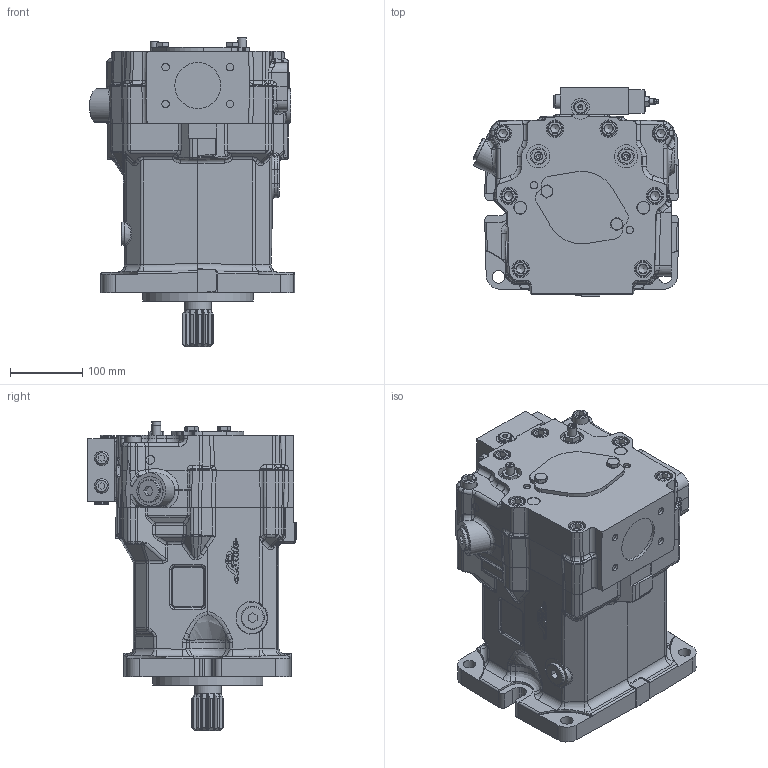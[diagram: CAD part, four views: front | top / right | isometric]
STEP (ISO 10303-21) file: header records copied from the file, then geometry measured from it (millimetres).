
FILE_DESCRIPTION(/* description */ (''),/* implementation_level */ '2;1');
FILE_NAME(/* name */ '1850259hm355.stp',/* time_stamp */ '2012-03-28T14:15:52+02:00',/* author */ (''),/* organization */ (''),/* preprocessor_version */ 'ST-DEVELOPER v11',/* originating_system */ 'SIEMENS PLM Software NX 7.5',/* authorisation */ '');
FILE_SCHEMA (('AUTOMOTIVE_DESIGN { 1 0 10303 214 1 1 1 1 }'));
Products named in the file (1): 1850259hm355
Bounding box: 284.09 x 287.5 x 426.7 mm (x, y, z)
Volume: 16220454.5 mm3; surface area: 674704.7 mm2
Topology: 4 solids, 32 shells, 2187 faces, 5219 edges, 3229 vertices
Faces by surface type: plane 788, cylinder 636, bspline 318, cone 172, extrusion 146, torus 71, sphere 30, revolution 26
Full cylindrical faces by diameter (mm): 3 x2, 5 x10, 6 x2, 8 x2, 9 x12, 9.2 x6, 10 x10, 10.2 x11, 11 x10, 12 x13, 12.25 x1, 12.5 x1, 13 x6, 14 x16, 15 x6, 15.5 x15, 16 x2, 17.5 x4, 18.8 x4, 19.5 x4, 20 x4, 21 x8, 23 x2, 24 x9, 25 x3, 31.8 x1, 32 x4, 36.6 x1, 40 x1, 44.45 x1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
Entity records: 68597 total; most frequent: CARTESIAN_POINT 21649, ORIENTED_EDGE 9620, DIRECTION 9329, EDGE_CURVE 4810, AXIS2_PLACEMENT_3D 3702, VERTEX_POINT 3114, EDGE_LOOP 2650, ADVANCED_FACE 2187
